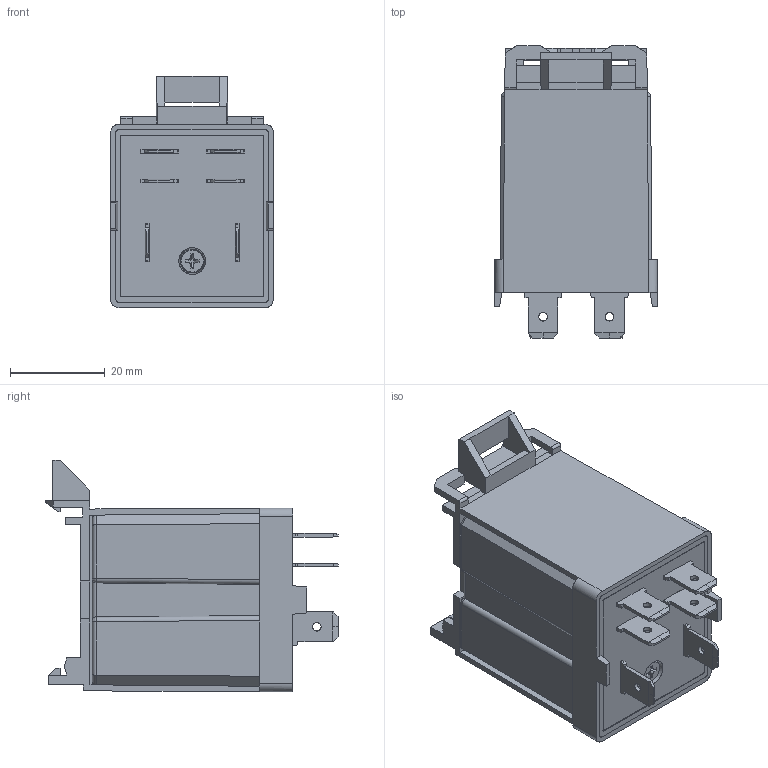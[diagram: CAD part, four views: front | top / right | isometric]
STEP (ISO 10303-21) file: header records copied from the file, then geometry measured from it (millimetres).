
FILE_DESCRIPTION(('STEP AP214'),'2;1');
FILE_NAME('06507_with_6531xxxxx0009.stp','2013-09-16T11:16:10',(''),(''),'2007.1.106','THINKDESIGN','');
FILE_SCHEMA(('AUTOMOTIVE_DESIGN'));
Length unit declared in the file: millimetre
Products named in the file (1): top
Bounding box: 34.33 x 61.6 x 48.8 mm (x, y, z)
Surface area: 19878.6 mm2 (no closed solid volume)
Topology: 0 solids, 0 shells, 491 faces, 2785 edges, 2784 vertices
Faces by surface type: plane 310, cylinder 107, bspline 74
Full cylindrical faces by diameter (mm): 1.8 x6, 2 x1, 5 x1
Entity records: 24430 total; most frequent: CARTESIAN_POINT 9010, DIRECTION 3195, COMPOSITE_CURVE_SEGMENT 2780, TRIMMED_CURVE 2197, VECTOR 2063, LINE 2063, AXIS2_PLACEMENT_3D 566, STYLED_ITEM 501
